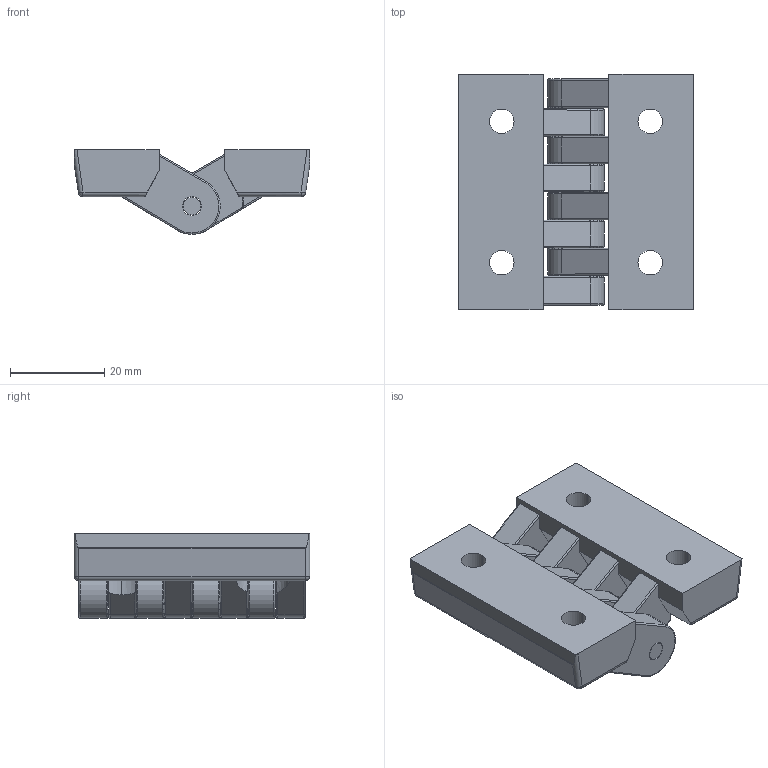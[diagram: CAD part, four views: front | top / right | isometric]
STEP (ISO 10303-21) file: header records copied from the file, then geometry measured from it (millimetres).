
FILE_DESCRIPTION (( 'STEP AP214' ), '1' );
FILE_NAME ('CL-265-2.STEP', '2017-09-26T03:06:45', ( '' ), ( '' ), 'SwSTEP 2.0', 'SolidWorks 2010', '' );
FILE_SCHEMA (( 'AUTOMOTIVE_DESIGN' ));
Length unit declared in the file: millimetre
Products named in the file (3): PIN; 主體; CL-265-2
Assembly tree (3 placements, depth 2):
  CL-265-2
    主體  x2
    PIN
Bounding box: 50 x 50 x 18 mm (x, y, z)
Volume: 23293.8 mm3; surface area: 11766.6 mm2
Topology: 3 solids, 3 shells, 190 faces, 502 edges, 312 vertices
Faces by surface type: cylinder 94, plane 66, torus 18, cone 8, sphere 4
Entity records: 3124 total; most frequent: CARTESIAN_POINT 619, DIRECTION 518, ORIENTED_EDGE 504, EDGE_CURVE 252, AXIS2_PLACEMENT_3D 193, VERTEX_POINT 158, LINE 132, VECTOR 132
